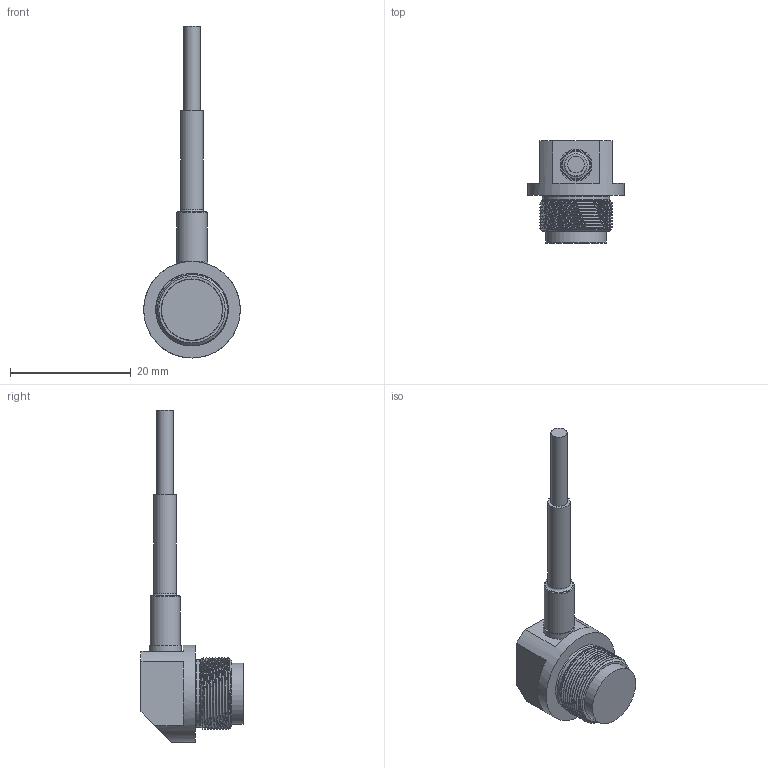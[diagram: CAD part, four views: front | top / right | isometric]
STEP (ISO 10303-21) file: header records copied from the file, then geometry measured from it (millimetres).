
FILE_DESCRIPTION( ( 'STEP AP214' ), '1' );
FILE_NAME( 'N:/Engineering/CAD_Solid/Wirbelstrom/Wirbelstromsensoren/T3/T3-FL-M1205-KR.stp', '2013-04-26T07:47:53', ( ' ' ), ( ' ' ), 'XStep 1.0', ' ', ' ' );
FILE_SCHEMA( ( 'CONFIG_CONTROL_DESIGN) ( )' ) );
Length unit declared in the file: metre
Products named in the file (6): 1; 2; 3; 4; 5; 6
Bounding box: 16 x 16.9 x 55 mm (x, y, z)
Surface area: 2418.7 mm2 (no closed solid volume)
Topology: 0 solids, 35 shells, 35 faces, 142 edges, 127 vertices
Faces by surface type: plane 16, cylinder 10, torus 4, cone 3, bspline 2
Full cylindrical faces by diameter (mm): 2.7 x1, 3.7 x1, 5 x1, 5.3 x1, 8 x1, 10.1 x1, 10.2 x1, 11.2 x1, 16 x1
Entity records: 18133 total; most frequent: CARTESIAN_POINT 17010, DIRECTION 226, ORIENTED_EDGE 122, EDGE_CURVE 122, VERTEX_POINT 122, AXIS2_PLACEMENT_3D 98, CIRCLE 57, FACE_BOUND 56
